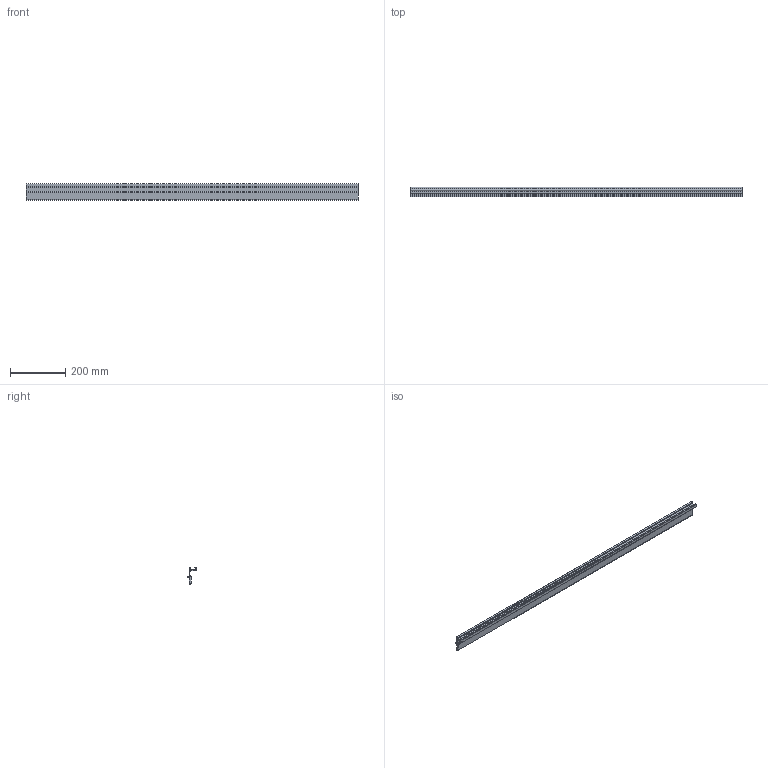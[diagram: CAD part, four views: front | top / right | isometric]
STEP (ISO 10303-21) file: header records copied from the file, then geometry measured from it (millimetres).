
FILE_DESCRIPTION( ( '' ), '1' );
FILE_NAME( 'C:/Documents and Settings/Vijay/Desktop/Missing Items/1076849.stp', '2013-06-17T10:13:35', ( '' ), ( '' ), ' ', ' ', ' ' );
FILE_SCHEMA( ( 'automotive_design' ) );
Length unit declared in the file: millimetre
Products named in the file (1): 1
Bounding box: 1200 x 34.7 x 60 mm (x, y, z)
Volume: 590474.7 mm3; surface area: 270798.7 mm2
Topology: 1 solids, 1 shells, 50 faces, 144 edges, 96 vertices
Faces by surface type: plane 32, cylinder 18
Entity records: 3268 total; most frequent: STYLED_ITEM 291, PRESENTATION_STYLE_ASSIGNMENT 291, CARTESIAN_POINT 291, COLOUR_RGB 291, ORIENTED_EDGE 288, DIRECTION 282, EDGE_CURVE 144, CURVE_STYLE 144
